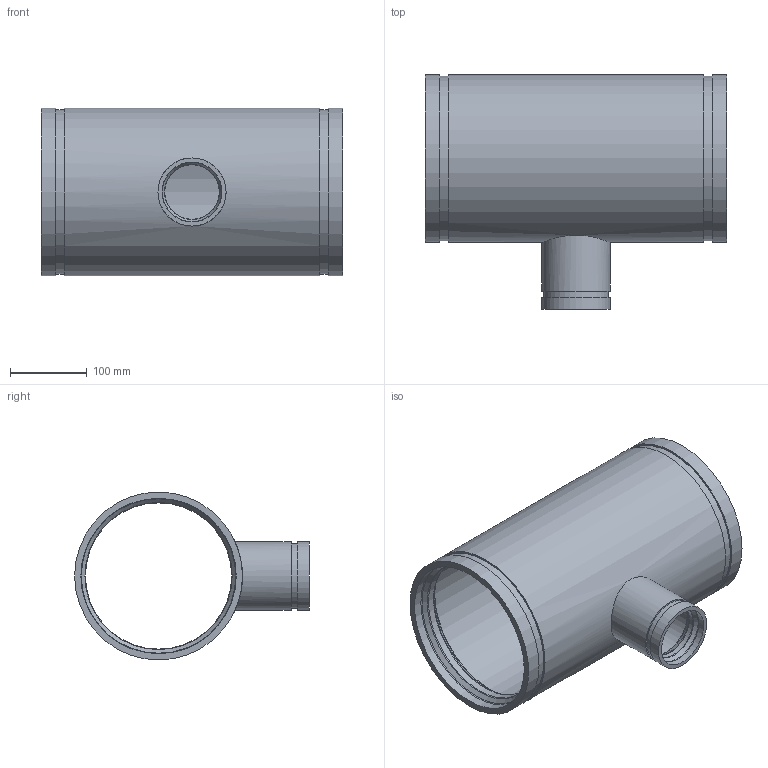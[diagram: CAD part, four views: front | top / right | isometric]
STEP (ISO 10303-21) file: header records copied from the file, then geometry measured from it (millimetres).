
FILE_DESCRIPTION(/* description */ ('VIC REDUCING TEE No 425H-SS','CAx-IF Rec.Pracs.---Representation and Presentation of Product Manufacturing Information (PMI)---4.0---2014-10-13'),/* implementation_level */ '2;1');
FILE_NAME(/* name */ 'C:\Users\kkamble\AppData\Roaming\Autodesk\ApplicationPlugins\Back Up\Victaulic_SS-OGS_Tee Reducing_Sched 40S_No 425H SS (OGS)\Victaulic_SS-OGS_Tee Reducing_Sched 40S_No 425H SS (OGS)_08.0x03.0 (200x80).stp',/* time_stamp */ '2020-08-27T17:20:14+06:00',/* author */ ('CORINNE GRAY'),/* organization */ ('Victaulic'),/* preprocessor_version */ 'ST-DEVELOPER v17.2',/* originating_system */ 'Autodesk Inventor 2019',/* authorisation */ '');
FILE_SCHEMA (('AP242_MANAGED_MODEL_BASED_3D_ENGINEERING_MIM_LF { 1 0 10303 442 1 1 4 }'));
Length unit declared in the file: inch
Products named in the file (1): 425H SS-08.0x03.0
Bounding box: 393.7 x 306.39 x 219.07 mm (x, y, z)
Volume: 2326673 mm3; surface area: 583823.3 mm2
Topology: 1 solids, 1 shells, 43 faces, 134 edges, 100 vertices
Faces by surface type: cylinder 16, torus 12, plane 9, cone 6
Full cylindrical faces by diameter (mm): 71.018 x1, 77.978 x2, 84.938 x1, 88.9 x2, 190.983 x2, 202.692 x3, 214.401 x2, 219.075 x3
Entity records: 1919 total; most frequent: CARTESIAN_POINT 427, DIRECTION 352, ORIENTED_EDGE 268, AXIS2_PLACEMENT_3D 165, EDGE_CURVE 134, CIRCLE 108, VERTEX_POINT 100, EDGE_LOOP 54
